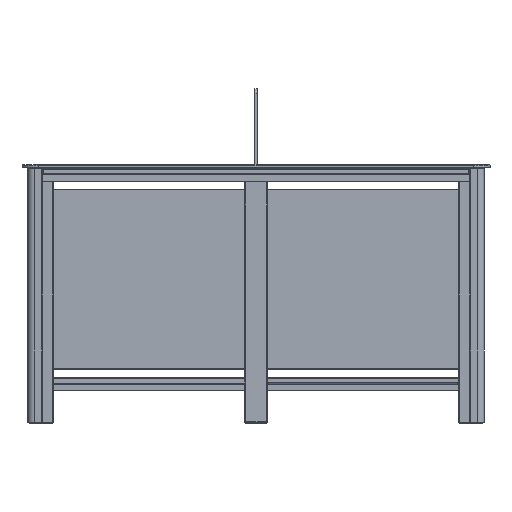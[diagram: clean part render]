
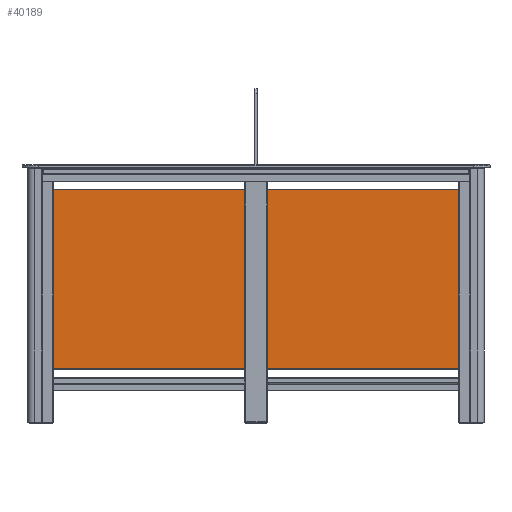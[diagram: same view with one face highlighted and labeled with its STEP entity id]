
A CAD part, left-side view. The second image highlights one B-rep face of the part: STEP entity #40189.
In plain terms, the highlighted planar face has unit normal (-1, 0, 0) as drawn and (0, 0, 1) by its records, which use the part's own axes.
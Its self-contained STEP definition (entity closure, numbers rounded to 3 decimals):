
#5180=LINE('',#65725,#9448);
#5181=LINE('',#65729,#9449);
#5182=LINE('',#65733,#9450);
#5183=LINE('',#65737,#9451);
#9448=VECTOR('',#53294,1000.);
#9449=VECTOR('',#53297,1000.);
#9450=VECTOR('',#53300,1000.);
#9451=VECTOR('',#53303,1000.);
#19111=ORIENTED_EDGE('',*,*,#25636,.T.);
#19112=ORIENTED_EDGE('',*,*,#25637,.T.);
#19113=ORIENTED_EDGE('',*,*,#25638,.T.);
#19114=ORIENTED_EDGE('',*,*,#25639,.T.);
#19115=ORIENTED_EDGE('',*,*,#25640,.T.);
#19116=ORIENTED_EDGE('',*,*,#25641,.T.);
#19117=ORIENTED_EDGE('',*,*,#25642,.T.);
#19118=ORIENTED_EDGE('',*,*,#25643,.T.);
#19119=ORIENTED_EDGE('',*,*,#25644,.T.);
#19120=ORIENTED_EDGE('',*,*,#25645,.T.);
#19121=ORIENTED_EDGE('',*,*,#25646,.T.);
#19122=ORIENTED_EDGE('',*,*,#25647,.T.);
#19123=ORIENTED_EDGE('',*,*,#25648,.T.);
#19124=ORIENTED_EDGE('',*,*,#25649,.T.);
#25636=EDGE_CURVE('',#29549,#29549,#30943,.T.);
#25637=EDGE_CURVE('',#29550,#29550,#30944,.T.);
#25638=EDGE_CURVE('',#29551,#29551,#30945,.T.);
#25639=EDGE_CURVE('',#29552,#29552,#30946,.T.);
#25640=EDGE_CURVE('',#29553,#29553,#30947,.T.);
#25641=EDGE_CURVE('',#29554,#29555,#30948,.F.);
#25642=EDGE_CURVE('',#29555,#29556,#5180,.T.);
#25643=EDGE_CURVE('',#29556,#29557,#30949,.F.);
#25644=EDGE_CURVE('',#29557,#29558,#5181,.T.);
#25645=EDGE_CURVE('',#29558,#29559,#30950,.F.);
#25646=EDGE_CURVE('',#29559,#29560,#5182,.T.);
#25647=EDGE_CURVE('',#29560,#29561,#30951,.F.);
#25648=EDGE_CURVE('',#29561,#29554,#5183,.T.);
#25649=EDGE_CURVE('',#29562,#29562,#30952,.T.);
#29549=VERTEX_POINT('',#65713);
#29550=VERTEX_POINT('',#65715);
#29551=VERTEX_POINT('',#65717);
#29552=VERTEX_POINT('',#65719);
#29553=VERTEX_POINT('',#65721);
#29554=VERTEX_POINT('',#65723);
#29555=VERTEX_POINT('',#65724);
#29556=VERTEX_POINT('',#65726);
#29557=VERTEX_POINT('',#65728);
#29558=VERTEX_POINT('',#65730);
#29559=VERTEX_POINT('',#65732);
#29560=VERTEX_POINT('',#65734);
#29561=VERTEX_POINT('',#65736);
#29562=VERTEX_POINT('',#65739);
#30943=CIRCLE('',#43743,7.);
#30944=CIRCLE('',#43744,7.);
#30945=CIRCLE('',#43745,7.);
#30946=CIRCLE('',#43746,7.);
#30947=CIRCLE('',#43747,7.);
#30948=CIRCLE('',#43748,14.);
#30949=CIRCLE('',#43749,14.);
#30950=CIRCLE('',#43750,14.);
#30951=CIRCLE('',#43751,14.);
#30952=CIRCLE('',#43752,7.);
#33519=EDGE_LOOP('',(#19111));
#33520=EDGE_LOOP('',(#19112));
#33521=EDGE_LOOP('',(#19113));
#33522=EDGE_LOOP('',(#19114));
#33523=EDGE_LOOP('',(#19115));
#33524=EDGE_LOOP('',(#19116,#19117,#19118,#19119,#19120,#19121,#19122,#19123));
#33525=EDGE_LOOP('',(#19124));
#36345=FACE_BOUND('',#33519,.T.);
#36346=FACE_BOUND('',#33520,.T.);
#36347=FACE_BOUND('',#33521,.T.);
#36348=FACE_BOUND('',#33522,.T.);
#36349=FACE_BOUND('',#33523,.T.);
#36350=FACE_BOUND('',#33524,.T.);
#36351=FACE_BOUND('',#33525,.T.);
#38182=PLANE('',#43742);
#40189=ADVANCED_FACE('',(#36345,#36346,#36347,#36348,#36349,#36350,#36351),
#38182,.F.);
#43742=AXIS2_PLACEMENT_3D('',#65711,#53280,#53281);
#43743=AXIS2_PLACEMENT_3D('',#65712,#53282,#53283);
#43744=AXIS2_PLACEMENT_3D('',#65714,#53284,#53285);
#43745=AXIS2_PLACEMENT_3D('',#65716,#53286,#53287);
#43746=AXIS2_PLACEMENT_3D('',#65718,#53288,#53289);
#43747=AXIS2_PLACEMENT_3D('',#65720,#53290,#53291);
#43748=AXIS2_PLACEMENT_3D('',#65722,#53292,#53293);
#43749=AXIS2_PLACEMENT_3D('',#65727,#53295,#53296);
#43750=AXIS2_PLACEMENT_3D('',#65731,#53298,#53299);
#43751=AXIS2_PLACEMENT_3D('',#65735,#53301,#53302);
#43752=AXIS2_PLACEMENT_3D('',#65738,#53304,#53305);
#53280=DIRECTION('',(0.,0.,-1.));
#53281=DIRECTION('',(-1.,0.,0.));
#53282=DIRECTION('',(0.,0.,-1.));
#53283=DIRECTION('',(-1.,0.,0.));
#53284=DIRECTION('',(0.,0.,-1.));
#53285=DIRECTION('',(-1.,0.,0.));
#53286=DIRECTION('',(0.,0.,-1.));
#53287=DIRECTION('',(-1.,0.,0.));
#53288=DIRECTION('',(0.,0.,-1.));
#53289=DIRECTION('',(-1.,0.,0.));
#53290=DIRECTION('',(0.,0.,-1.));
#53291=DIRECTION('',(-1.,0.,0.));
#53292=DIRECTION('',(0.,0.,-1.));
#53293=DIRECTION('',(-1.,0.,0.));
#53294=DIRECTION('',(1.,0.,0.));
#53295=DIRECTION('',(0.,0.,-1.));
#53296=DIRECTION('',(-1.,0.,0.));
#53297=DIRECTION('',(0.,1.,0.));
#53298=DIRECTION('',(0.,0.,-1.));
#53299=DIRECTION('',(-1.,0.,0.));
#53300=DIRECTION('',(-1.,0.,0.));
#53301=DIRECTION('',(0.,0.,-1.));
#53302=DIRECTION('',(-1.,0.,0.));
#53303=DIRECTION('',(0.,-1.,0.));
#53304=DIRECTION('',(0.,0.,-1.));
#53305=DIRECTION('',(-1.,0.,0.));
#65711=CARTESIAN_POINT('',(850.,350.,4.));
#65712=CARTESIAN_POINT('',(825.,250.,4.));
#65713=CARTESIAN_POINT('',(818.,250.,4.));
#65714=CARTESIAN_POINT('',(825.,-250.,4.));
#65715=CARTESIAN_POINT('',(818.,-250.,4.));
#65716=CARTESIAN_POINT('',(0.,-200.,4.));
#65717=CARTESIAN_POINT('',(-7.,-200.,4.));
#65718=CARTESIAN_POINT('',(-825.,-250.,4.));
#65719=CARTESIAN_POINT('',(-832.,-250.,4.));
#65720=CARTESIAN_POINT('',(-825.,250.,4.));
#65721=CARTESIAN_POINT('',(-832.,250.,4.));
#65722=CARTESIAN_POINT('',(-835.,-335.,4.));
#65723=CARTESIAN_POINT('',(-849.,-335.,4.));
#65724=CARTESIAN_POINT('',(-835.,-349.,4.));
#65725=CARTESIAN_POINT('',(835.,-349.,4.));
#65726=CARTESIAN_POINT('',(835.,-349.,4.));
#65727=CARTESIAN_POINT('',(835.,-335.,4.));
#65728=CARTESIAN_POINT('',(849.,-335.,4.));
#65729=CARTESIAN_POINT('',(849.,335.,4.));
#65730=CARTESIAN_POINT('',(849.,335.,4.));
#65731=CARTESIAN_POINT('',(835.,335.,4.));
#65732=CARTESIAN_POINT('',(835.,349.,4.));
#65733=CARTESIAN_POINT('',(-835.,349.,4.));
#65734=CARTESIAN_POINT('',(-835.,349.,4.));
#65735=CARTESIAN_POINT('',(-835.,335.,4.));
#65736=CARTESIAN_POINT('',(-849.,335.,4.));
#65737=CARTESIAN_POINT('',(-849.,-335.,4.));
#65738=CARTESIAN_POINT('',(0.,200.,4.));
#65739=CARTESIAN_POINT('',(-7.,200.,4.));
